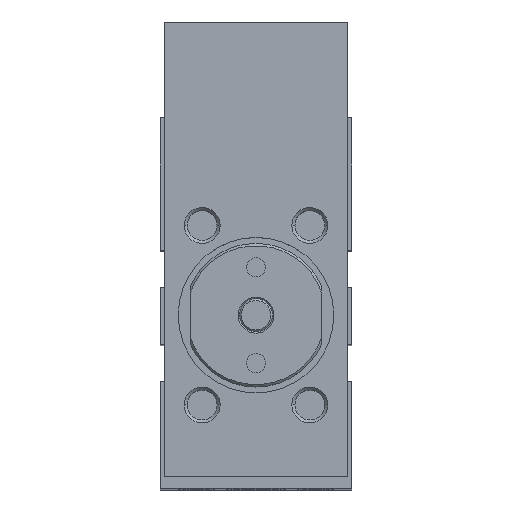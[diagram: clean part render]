
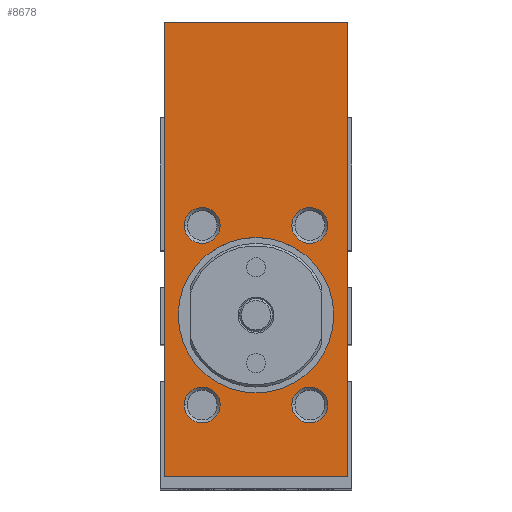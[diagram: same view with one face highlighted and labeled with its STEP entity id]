
A CAD part, top view. The second image highlights one B-rep face of the part: STEP entity #8678.
In plain terms, the highlighted planar face has unit normal (0, 0, 1).
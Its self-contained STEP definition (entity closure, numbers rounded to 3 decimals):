
#6132=DIRECTION('',(0.,-1.,0.));
#6133=VECTOR('',#6132,38.);
#6134=CARTESIAN_POINT('',(-7.65,24.5,0.));
#6135=LINE('',#6134,#6133);
#6136=DIRECTION('',(1.,0.,0.));
#6137=VECTOR('',#6136,15.3);
#6138=CARTESIAN_POINT('',(-7.65,-13.5,0.));
#6139=LINE('',#6138,#6137);
#6140=DIRECTION('',(1.,0.,0.));
#6141=VECTOR('',#6140,15.3);
#6142=CARTESIAN_POINT('',(-7.65,24.5,0.));
#6143=LINE('',#6142,#6141);
#6144=CARTESIAN_POINT('',(0.,0.,0.));
#6145=DIRECTION('',(0.,0.,1.));
#6146=DIRECTION('',(0.,1.,0.));
#6147=AXIS2_PLACEMENT_3D('',#6144,#6145,#6146);
#6149=CARTESIAN_POINT('',(0.,0.,0.));
#6150=DIRECTION('',(0.,0.,1.));
#6151=DIRECTION('',(0.,-1.,0.));
#6152=AXIS2_PLACEMENT_3D('',#6149,#6150,#6151);
#6498=DIRECTION('',(0.,-1.,0.));
#6499=VECTOR('',#6498,38.);
#6500=CARTESIAN_POINT('',(7.65,24.5,0.));
#6501=LINE('',#6500,#6499);
#6784=CARTESIAN_POINT('',(-4.5,7.5,0.));
#6785=DIRECTION('',(0.,0.,1.));
#6786=DIRECTION('',(1.,0.,0.));
#6787=AXIS2_PLACEMENT_3D('',#6784,#6785,#6786);
#6794=CARTESIAN_POINT('',(-4.5,7.5,0.));
#6795=DIRECTION('',(0.,0.,1.));
#6796=DIRECTION('',(-1.,0.,0.));
#6797=AXIS2_PLACEMENT_3D('',#6794,#6795,#6796);
#6848=CARTESIAN_POINT('',(4.5,7.5,0.));
#6849=DIRECTION('',(0.,0.,1.));
#6850=DIRECTION('',(1.,0.,0.));
#6851=AXIS2_PLACEMENT_3D('',#6848,#6849,#6850);
#6858=CARTESIAN_POINT('',(4.5,7.5,0.));
#6859=DIRECTION('',(0.,0.,1.));
#6860=DIRECTION('',(-1.,0.,0.));
#6861=AXIS2_PLACEMENT_3D('',#6858,#6859,#6860);
#6912=CARTESIAN_POINT('',(-4.5,-7.5,0.));
#6913=DIRECTION('',(0.,0.,1.));
#6914=DIRECTION('',(1.,0.,0.));
#6915=AXIS2_PLACEMENT_3D('',#6912,#6913,#6914);
#6922=CARTESIAN_POINT('',(-4.5,-7.5,0.));
#6923=DIRECTION('',(0.,0.,1.));
#6924=DIRECTION('',(-1.,0.,0.));
#6925=AXIS2_PLACEMENT_3D('',#6922,#6923,#6924);
#6976=CARTESIAN_POINT('',(4.5,-7.5,0.));
#6977=DIRECTION('',(0.,0.,1.));
#6978=DIRECTION('',(1.,0.,0.));
#6979=AXIS2_PLACEMENT_3D('',#6976,#6977,#6978);
#6986=CARTESIAN_POINT('',(4.5,-7.5,0.));
#6987=DIRECTION('',(0.,0.,1.));
#6988=DIRECTION('',(-1.,0.,0.));
#6989=AXIS2_PLACEMENT_3D('',#6986,#6987,#6988);
#8034=CARTESIAN_POINT('',(-7.65,-13.5,0.));
#8036=VERTEX_POINT('',#8034);
#8048=CARTESIAN_POINT('',(-7.65,24.5,0.));
#8049=VERTEX_POINT('',#8048);
#8050=CARTESIAN_POINT('',(7.65,-13.5,0.));
#8052=VERTEX_POINT('',#8050);
#8064=CARTESIAN_POINT('',(7.65,24.5,0.));
#8065=VERTEX_POINT('',#8064);
#8078=CARTESIAN_POINT('',(0.,6.5,0.));
#8079=CARTESIAN_POINT('',(0.,-6.5,0.));
#8080=VERTEX_POINT('',#8078);
#8081=VERTEX_POINT('',#8079);
#8098=CARTESIAN_POINT('',(-3.,7.5,0.));
#8099=CARTESIAN_POINT('',(-6.,7.5,0.));
#8100=VERTEX_POINT('',#8098);
#8101=VERTEX_POINT('',#8099);
#8106=CARTESIAN_POINT('',(6.,7.5,0.));
#8107=CARTESIAN_POINT('',(3.,7.5,0.));
#8108=VERTEX_POINT('',#8106);
#8109=VERTEX_POINT('',#8107);
#8114=CARTESIAN_POINT('',(6.,-7.5,0.));
#8115=CARTESIAN_POINT('',(3.,-7.5,0.));
#8116=VERTEX_POINT('',#8114);
#8117=VERTEX_POINT('',#8115);
#8122=CARTESIAN_POINT('',(-3.,-7.5,0.));
#8123=CARTESIAN_POINT('',(-6.,-7.5,0.));
#8124=VERTEX_POINT('',#8122);
#8125=VERTEX_POINT('',#8123);
#8635=CARTESIAN_POINT('',(-7.65,24.5,0.));
#8636=DIRECTION('',(0.,0.,1.));
#8637=DIRECTION('',(0.,-1.,0.));
#8638=AXIS2_PLACEMENT_3D('',#8635,#8636,#8637);
#8639=PLANE('',#8638);
#8640=ORIENTED_EDGE('',*,*,#8615,.F.);
#8642=ORIENTED_EDGE('',*,*,#8641,.T.);
#8644=ORIENTED_EDGE('',*,*,#8643,.T.);
#8645=ORIENTED_EDGE('',*,*,#8626,.F.);
#8646=EDGE_LOOP('',(#8640,#8642,#8644,#8645));
#8647=FACE_OUTER_BOUND('',#8646,.F.);
#8649=ORIENTED_EDGE('',*,*,#8648,.T.);
#8651=ORIENTED_EDGE('',*,*,#8650,.T.);
#8652=EDGE_LOOP('',(#8649,#8651));
#8653=FACE_BOUND('',#8652,.F.);
#8655=ORIENTED_EDGE('',*,*,#8654,.T.);
#8657=ORIENTED_EDGE('',*,*,#8656,.T.);
#8658=EDGE_LOOP('',(#8655,#8657));
#8659=FACE_BOUND('',#8658,.F.);
#8661=ORIENTED_EDGE('',*,*,#8660,.T.);
#8663=ORIENTED_EDGE('',*,*,#8662,.T.);
#8664=EDGE_LOOP('',(#8661,#8663));
#8665=FACE_BOUND('',#8664,.F.);
#8667=ORIENTED_EDGE('',*,*,#8666,.T.);
#8669=ORIENTED_EDGE('',*,*,#8668,.T.);
#8670=EDGE_LOOP('',(#8667,#8669));
#8671=FACE_BOUND('',#8670,.F.);
#8673=ORIENTED_EDGE('',*,*,#8672,.T.);
#8675=ORIENTED_EDGE('',*,*,#8674,.T.);
#8676=EDGE_LOOP('',(#8673,#8675));
#8677=FACE_BOUND('',#8676,.F.);
#8678=ADVANCED_FACE('',(#8647,#8653,#8659,#8665,#8671,#8677),#8639,.T.);
#6148=CIRCLE('',#6147,6.5);
#6153=CIRCLE('',#6152,6.5);
#6788=CIRCLE('',#6787,1.5);
#6798=CIRCLE('',#6797,1.5);
#6852=CIRCLE('',#6851,1.5);
#6862=CIRCLE('',#6861,1.5);
#6916=CIRCLE('',#6915,1.5);
#6926=CIRCLE('',#6925,1.5);
#6980=CIRCLE('',#6979,1.5);
#6990=CIRCLE('',#6989,1.5);
#8615=EDGE_CURVE('',#8049,#8036,#6135,.T.);
#8626=EDGE_CURVE('',#8036,#8052,#6139,.T.);
#8641=EDGE_CURVE('',#8049,#8065,#6143,.T.);
#8643=EDGE_CURVE('',#8065,#8052,#6501,.T.);
#8648=EDGE_CURVE('',#8080,#8081,#6148,.T.);
#8650=EDGE_CURVE('',#8081,#8080,#6153,.T.);
#8654=EDGE_CURVE('',#8100,#8101,#6788,.T.);
#8656=EDGE_CURVE('',#8101,#8100,#6798,.T.);
#8660=EDGE_CURVE('',#8108,#8109,#6852,.T.);
#8662=EDGE_CURVE('',#8109,#8108,#6862,.T.);
#8666=EDGE_CURVE('',#8124,#8125,#6916,.T.);
#8668=EDGE_CURVE('',#8125,#8124,#6926,.T.);
#8672=EDGE_CURVE('',#8116,#8117,#6980,.T.);
#8674=EDGE_CURVE('',#8117,#8116,#6990,.T.);
